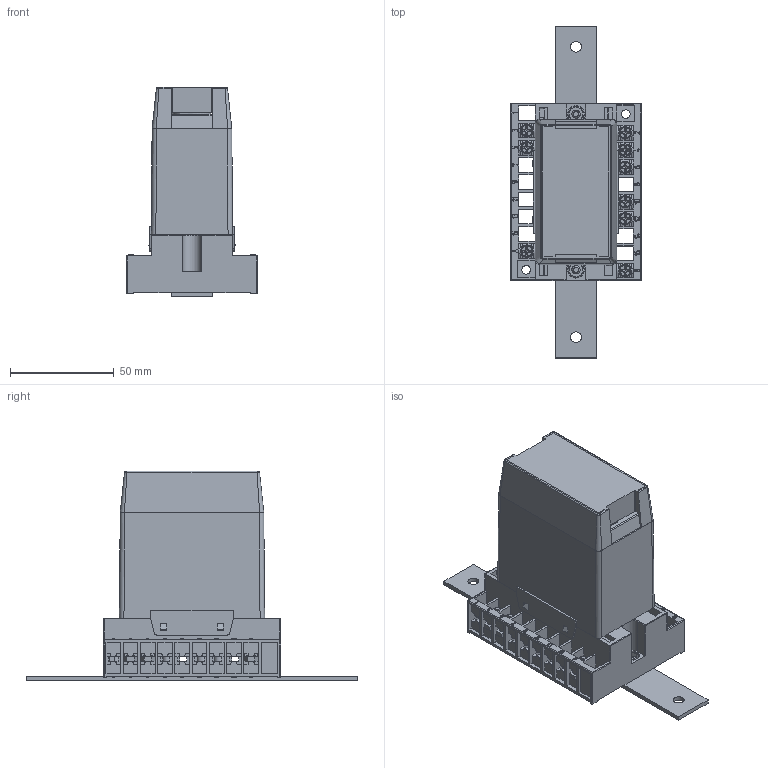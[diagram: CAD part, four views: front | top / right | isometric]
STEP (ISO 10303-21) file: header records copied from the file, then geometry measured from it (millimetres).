
FILE_DESCRIPTION(('STEP AP242'), '1');
FILE_NAME('ÐÑÂ18 (Ñáîðêà) c ïëàíêîé', '2025-05-16T04:50:11', ('redal'), (''), 'ASCON STEP Converter 1.6', 'ASCON Math Kernel', '');
FILE_SCHEMA(('AP242_MANAGED_MODEL_BASED_3D_ENGINEERING_MIM_LF { 1 0 10303 442 1 1 4 }'));
Length unit declared in the file: millimetre
Assembly tree (2 placements, depth 2):
  (unnamed)
    (unnamed)
    (unnamed)
Bounding box: 63 x 160 x 101 mm (x, y, z)
Volume: 73401.5 mm3; surface area: 94795.2 mm2
Topology: 4 solids, 4 shells, 6001 faces, 17554 edges, 11519 vertices
Faces by surface type: plane 3025, cylinder 2501, bspline 326, cone 90, torus 51, sphere 8
Full cylindrical faces by diameter (mm): 2 x9, 2.45 x9, 3 x18, 3.7 x2, 4 x2, 4.2 x2, 5.2 x2, 7 x2, 7.4 x2, 8 x2, 18.8 x2
Entity records: 271643 total; most frequent: CARTESIAN_POINT 63661, ORIENTED_EDGE 34874, DIRECTION 32356, EDGE_CURVE 17437, VERTEX_POINT 11519, LINE 11046, VECTOR 11046, AXIS2_PLACEMENT_3D 10655
